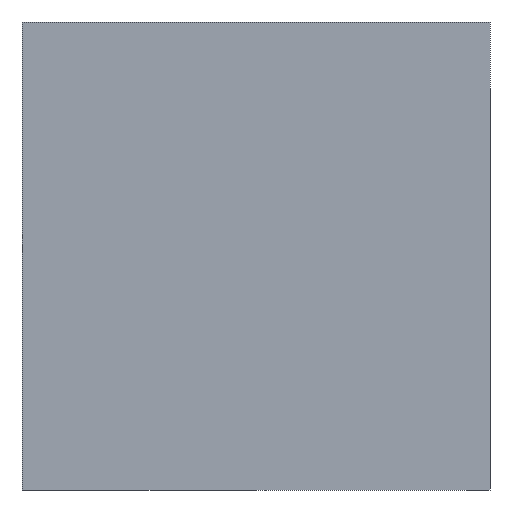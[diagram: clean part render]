
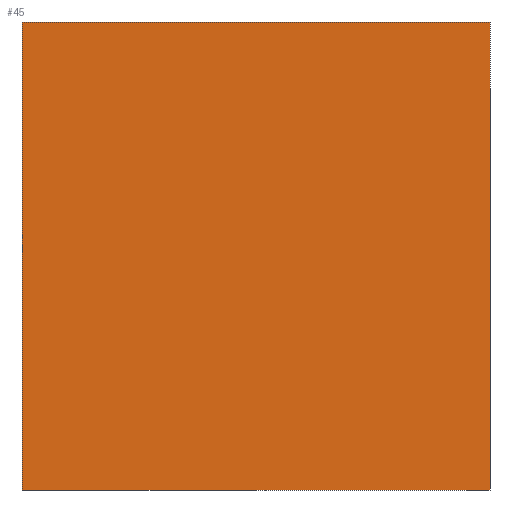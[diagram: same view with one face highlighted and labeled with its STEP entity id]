
A CAD part, left-side view. The second image highlights one B-rep face of the part: STEP entity #45.
In plain terms, the highlighted planar face has unit normal (-1, 0, 0).
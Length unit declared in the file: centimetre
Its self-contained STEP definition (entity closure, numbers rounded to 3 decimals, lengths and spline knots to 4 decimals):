
#35 = ORIENTED_EDGE ( 'NONE', *, *, #166, .F. ) ;
#45 = ADVANCED_FACE ( 'NONE', ( #65 ), #304, .F. ) ;
#52 = DIRECTION ( 'NONE',  ( 0., 0., -1. ) ) ;
#58 = CARTESIAN_POINT ( 'NONE',  ( 0., 1000., 1000. ) ) ;
#65 = FACE_OUTER_BOUND ( 'NONE', #258, .T. ) ;
#100 = LINE ( 'NONE', #58, #115 ) ;
#102 = DIRECTION ( 'NONE',  ( 1., 0., 0. ) ) ;
#115 = VECTOR ( 'NONE', #221, 100. ) ;
#144 = VECTOR ( 'NONE', #52, 100. ) ;
#151 = VERTEX_POINT ( 'NONE', #469 ) ;
#165 = CARTESIAN_POINT ( 'NONE',  ( 0., 0., 0. ) ) ;
#166 = EDGE_CURVE ( 'NONE', #509, #151, #402, .T. ) ;
#173 = CARTESIAN_POINT ( 'NONE',  ( 0., 1000., 0. ) ) ;
#179 = DIRECTION ( 'NONE',  ( 0., 0., -1. ) ) ;
#221 = DIRECTION ( 'NONE',  ( 0., 0., -1. ) ) ;
#237 = VECTOR ( 'NONE', #323, 100. ) ;
#240 = DIRECTION ( 'NONE',  ( 0., -1., 0. ) ) ;
#255 = LINE ( 'NONE', #173, #237 ) ;
#258 = EDGE_LOOP ( 'NONE', ( #271, #424, #35, #310 ) ) ;
#271 = ORIENTED_EDGE ( 'NONE', *, *, #507, .T. ) ;
#291 = CARTESIAN_POINT ( 'NONE',  ( 0., 0., 1000. ) ) ;
#304 = PLANE ( 'NONE',  #308 ) ;
#308 = AXIS2_PLACEMENT_3D ( 'NONE', #381, #102, #179 ) ;
#310 = ORIENTED_EDGE ( 'NONE', *, *, #384, .T. ) ;
#323 = DIRECTION ( 'NONE',  ( 0., -1., 0. ) ) ;
#347 = EDGE_CURVE ( 'NONE', #151, #506, #411, .T. ) ;
#372 = CARTESIAN_POINT ( 'NONE',  ( 0., 1000., 1000. ) ) ;
#381 = CARTESIAN_POINT ( 'NONE',  ( 0., 1000., 1000. ) ) ;
#384 = EDGE_CURVE ( 'NONE', #509, #485, #100, .T. ) ;
#402 = LINE ( 'NONE', #474, #472 ) ;
#411 = LINE ( 'NONE', #291, #144 ) ;
#424 = ORIENTED_EDGE ( 'NONE', *, *, #347, .F. ) ;
#451 = CARTESIAN_POINT ( 'NONE',  ( 0., 1000., 0. ) ) ;
#469 = CARTESIAN_POINT ( 'NONE',  ( 0., 0., 1000. ) ) ;
#472 = VECTOR ( 'NONE', #240, 100. ) ;
#474 = CARTESIAN_POINT ( 'NONE',  ( 0., 1000., 1000. ) ) ;
#485 = VERTEX_POINT ( 'NONE', #451 ) ;
#506 = VERTEX_POINT ( 'NONE', #165 ) ;
#507 = EDGE_CURVE ( 'NONE', #485, #506, #255, .T. ) ;
#509 = VERTEX_POINT ( 'NONE', #372 ) ;
